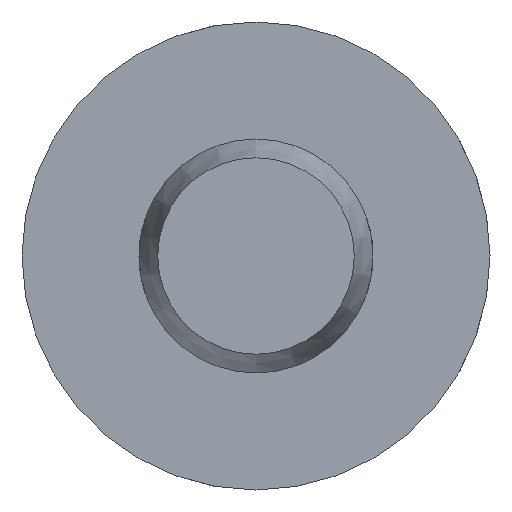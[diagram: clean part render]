
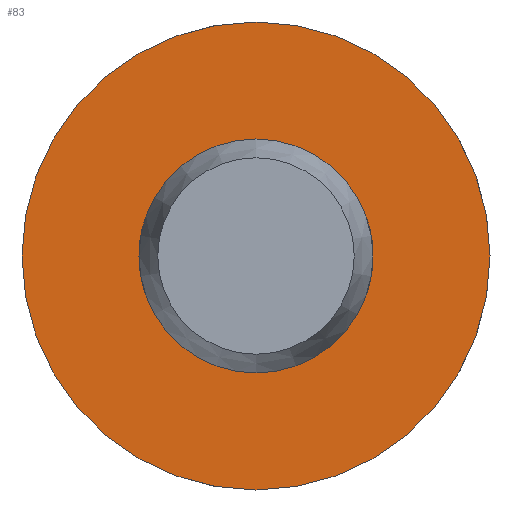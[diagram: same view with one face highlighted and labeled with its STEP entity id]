
A CAD part, left-side view. The second image highlights one B-rep face of the part: STEP entity #83.
In plain terms, the highlighted planar face has unit normal (-1, 0, 0).
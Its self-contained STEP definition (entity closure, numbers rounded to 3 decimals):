
#83 = ADVANCED_FACE( '', ( #129, #130 ), #131, .F. );
#129 = FACE_OUTER_BOUND( '', #208, .T. );
#130 = FACE_BOUND( '', #209, .T. );
#131 = PLANE( '', #210 );
#208 = EDGE_LOOP( '', ( #325 ) );
#209 = EDGE_LOOP( '', ( #326 ) );
#210 = AXIS2_PLACEMENT_3D( '', #327, #328, #329 );
#325 = ORIENTED_EDGE( '', *, *, #493, .F. );
#326 = ORIENTED_EDGE( '', *, *, #483, .T. );
#327 = CARTESIAN_POINT( '', ( 46., 2.5, 0. ) );
#328 = DIRECTION( '', ( 1., 0., 0. ) );
#329 = DIRECTION( '', ( 0., 0., -1. ) );
#483 = EDGE_CURVE( '', #554, #554, #555, .T. );
#493 = EDGE_CURVE( '', #572, #572, #573, .T. );
#554 = VERTEX_POINT( '', #741 );
#555 = CIRCLE( '', #742, 2.5 );
#572 = VERTEX_POINT( '', #842 );
#573 = CIRCLE( '', #843, 5. );
#741 = CARTESIAN_POINT( '', ( 46., 0., -2.5 ) );
#742 = AXIS2_PLACEMENT_3D( '', #906, #907, #908 );
#842 = CARTESIAN_POINT( '', ( 46., 0., -5. ) );
#843 = AXIS2_PLACEMENT_3D( '', #927, #928, #929 );
#906 = CARTESIAN_POINT( '', ( 46., 0., 0. ) );
#907 = DIRECTION( '', ( 1., 0., 0. ) );
#908 = DIRECTION( '', ( 0., 0., -1. ) );
#927 = CARTESIAN_POINT( '', ( 46., 0., 0. ) );
#928 = DIRECTION( '', ( 1., 0., 0. ) );
#929 = DIRECTION( '', ( 0., 0., -1. ) );
